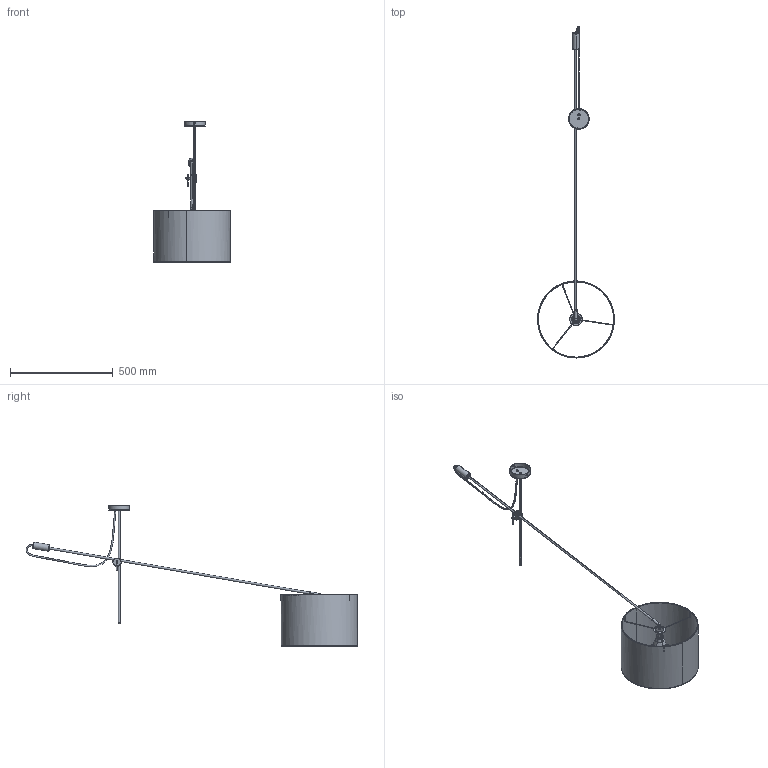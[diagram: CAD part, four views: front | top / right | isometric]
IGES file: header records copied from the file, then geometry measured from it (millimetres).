
Start section: SolidWorks IGES file using NURBS representation for surfaces
Global section: file name: Z:\Modele 3D_WWW\_KOLEKCJE_WWW\VIPER\VIPER-I-6640-6641\VIPER-I-6640-6641.IGS; native system: SolidWorks 2021; preprocessor: SolidWorks 2021; author: gabriela.tworek; date: 211115.105555; units: millimetre
Bounding box: 373.94 x 1612.9 x 685.41 mm (x, y, z)
Surface area: 535498.2 mm2 (no closed solid volume)
Topology: 0 solids, 0 shells, 385 faces, 5698 edges, 5676 vertices
Faces by surface type: bspline 385
